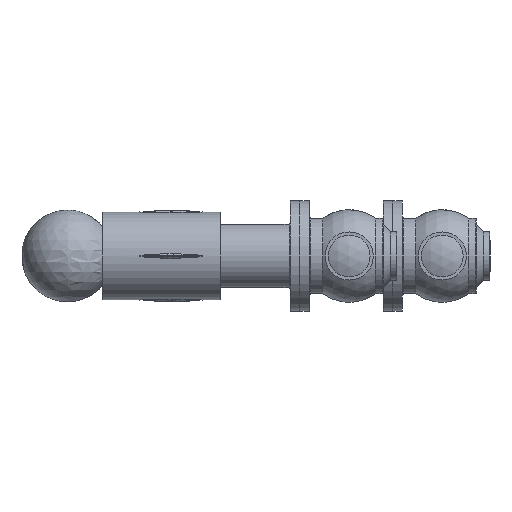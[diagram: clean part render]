
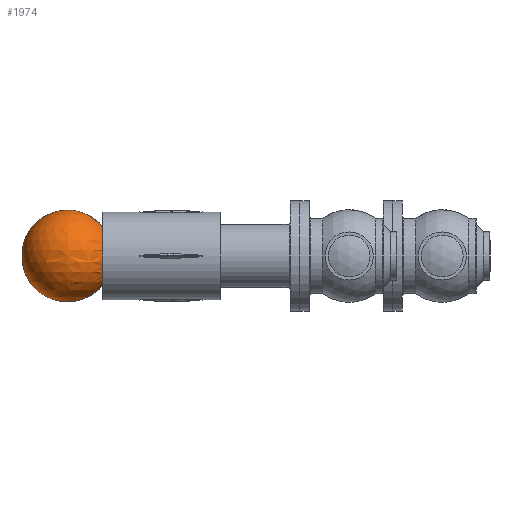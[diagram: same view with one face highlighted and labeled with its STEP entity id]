
A CAD part, left-side view. The second image highlights one B-rep face of the part: STEP entity #1974.
In plain terms, the highlighted spherical face has radius 72.5 mm.
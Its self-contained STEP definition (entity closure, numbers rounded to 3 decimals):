
#123=SPHERICAL_SURFACE('',#2297,72.5);
#233=FACE_BOUND('',#544,.T.);
#421=FACE_OUTER_BOUND('',#543,.T.);
#543=EDGE_LOOP('',(#1529,#1530));
#544=EDGE_LOOP('',(#1531));
#682=CIRCLE('',#2298,72.5);
#683=CIRCLE('',#2299,46.648);
#903=VERTEX_POINT('',#3792);
#904=VERTEX_POINT('',#3793);
#905=VERTEX_POINT('',#3795);
#1143=EDGE_CURVE('',#903,#904,#682,.T.);
#1144=EDGE_CURVE('',#905,#905,#683,.T.);
#1529=ORIENTED_EDGE('',*,*,#1143,.T.);
#1530=ORIENTED_EDGE('',*,*,#1143,.F.);
#1531=ORIENTED_EDGE('',*,*,#1144,.F.);
#1974=ADVANCED_FACE('',(#421,#233),#123,.T.);
#2297=AXIS2_PLACEMENT_3D('',#3791,#2750,#2751);
#2298=AXIS2_PLACEMENT_3D('',#3794,#2752,#2753);
#2299=AXIS2_PLACEMENT_3D('',#3796,#2754,#2755);
#2750=DIRECTION('center_axis',(0.,0.,1.));
#2751=DIRECTION('ref_axis',(1.,0.,0.));
#2752=DIRECTION('center_axis',(0.,-1.,0.));
#2753=DIRECTION('ref_axis',(-1.,0.,0.));
#2754=DIRECTION('center_axis',(0.,-1.,0.));
#2755=DIRECTION('ref_axis',(1.,0.,0.));
#3791=CARTESIAN_POINT('Origin',(150.,266.5,0.));
#3792=CARTESIAN_POINT('',(150.,266.5,72.5));
#3793=CARTESIAN_POINT('',(150.,266.5,-72.5));
#3794=CARTESIAN_POINT('Origin',(150.,266.5,0.));
#3795=CARTESIAN_POINT('',(196.648,211.,0.));
#3796=CARTESIAN_POINT('Origin',(150.,211.,0.));
